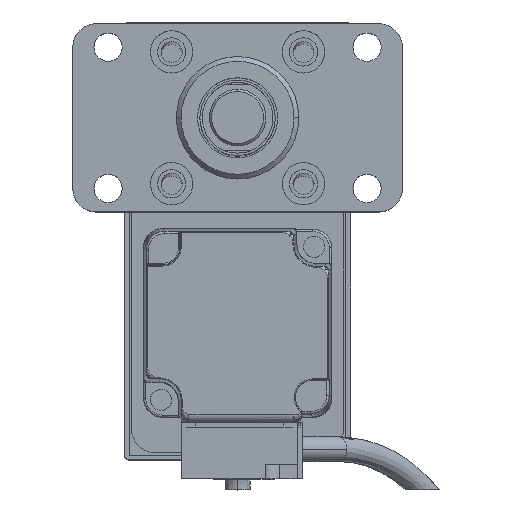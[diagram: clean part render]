
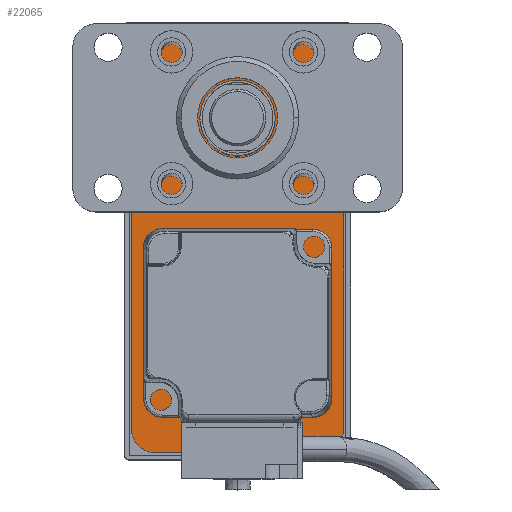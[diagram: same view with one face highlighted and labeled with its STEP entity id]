
A CAD part, top view. The second image highlights one B-rep face of the part: STEP entity #22065.
In plain terms, the highlighted planar face has unit normal (0, 0, 1).
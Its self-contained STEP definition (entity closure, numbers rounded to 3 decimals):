
#266 = EDGE_CURVE ( 'NONE', #18677, #11075, #13534, .T. ) ;
#655 = CARTESIAN_POINT ( 'NONE',  ( 22.5, -40., 10. ) ) ;
#673 = CARTESIAN_POINT ( 'NONE',  ( -22.5, 40., 10. ) ) ;
#963 = LINE ( 'NONE', #11417, #7876 ) ;
#1157 = ORIENTED_EDGE ( 'NONE', *, *, #16188, .T. ) ;
#2268 = ORIENTED_EDGE ( 'NONE', *, *, #266, .T. ) ;
#2504 = DIRECTION ( 'NONE',  ( 0., 0., 1. ) ) ;
#3588 = CARTESIAN_POINT ( 'NONE',  ( 22.5, 40., 10. ) ) ;
#4064 = DIRECTION ( 'NONE',  ( 0., 0., 1. ) ) ;
#4688 = CARTESIAN_POINT ( 'NONE',  ( -17.5, 40., 10. ) ) ;
#4713 = CARTESIAN_POINT ( 'NONE',  ( 17.5, -40., 10. ) ) ;
#5412 = AXIS2_PLACEMENT_3D ( 'NONE', #12448, #8597, #23998 ) ;
#5519 = ORIENTED_EDGE ( 'NONE', *, *, #11012, .T. ) ;
#5599 = DIRECTION ( 'NONE',  ( 1., 0., 0. ) ) ;
#6349 = DIRECTION ( 'NONE',  ( 1., 0., 0. ) ) ;
#6696 = DIRECTION ( 'NONE',  ( -1., 0., 0. ) ) ;
#7211 = VECTOR ( 'NONE', #8355, 1000. ) ;
#7227 = AXIS2_PLACEMENT_3D ( 'NONE', #15892, #4064, #21359 ) ;
#7876 = VECTOR ( 'NONE', #9996, 1000. ) ;
#8355 = DIRECTION ( 'NONE',  ( 0., 1., 0. ) ) ;
#8597 = DIRECTION ( 'NONE',  ( 0., 0., 1. ) ) ;
#8714 = ORIENTED_EDGE ( 'NONE', *, *, #15008, .T. ) ;
#9002 = ORIENTED_EDGE ( 'NONE', *, *, #23806, .T. ) ;
#9080 = VECTOR ( 'NONE', #5599, 1000. ) ;
#9562 = LINE ( 'NONE', #20311, #14371 ) ;
#9569 = VERTEX_POINT ( 'NONE', #12954 ) ;
#9996 = DIRECTION ( 'NONE',  ( 0., -1., 0. ) ) ;
#10197 = CARTESIAN_POINT ( 'NONE',  ( 22.5, -45., 10. ) ) ;
#10640 = EDGE_LOOP ( 'NONE', ( #8714, #13211, #1157, #9002, #14795, #2268, #5519, #15245 ) ) ;
#11012 = EDGE_CURVE ( 'NONE', #11075, #9569, #24455, .T. ) ;
#11016 = VERTEX_POINT ( 'NONE', #3588 ) ;
#11075 = VERTEX_POINT ( 'NONE', #18701 ) ;
#11417 = CARTESIAN_POINT ( 'NONE',  ( -22.5, -45., 10. ) ) ;
#12324 = LINE ( 'NONE', #10197, #7211 ) ;
#12448 = CARTESIAN_POINT ( 'NONE',  ( 17.5, 40., 10. ) ) ;
#12646 = EDGE_CURVE ( 'NONE', #16524, #18677, #963, .T. ) ;
#12819 = EDGE_CURVE ( 'NONE', #9569, #19888, #15978, .T. ) ;
#12954 = CARTESIAN_POINT ( 'NONE',  ( 17.5, -45., 10. ) ) ;
#13211 = ORIENTED_EDGE ( 'NONE', *, *, #24152, .T. ) ;
#13534 = CIRCLE ( 'NONE', #7227, 5. ) ;
#13963 = PLANE ( 'NONE',  #23423 ) ;
#14371 = VECTOR ( 'NONE', #6696, 1000. ) ;
#14795 = ORIENTED_EDGE ( 'NONE', *, *, #12646, .T. ) ;
#14844 = CARTESIAN_POINT ( 'NONE',  ( -17.5, 45., 10. ) ) ;
#14906 = AXIS2_PLACEMENT_3D ( 'NONE', #4713, #22332, #23959 ) ;
#15008 = EDGE_CURVE ( 'NONE', #19888, #11016, #12324, .T. ) ;
#15245 = ORIENTED_EDGE ( 'NONE', *, *, #12819, .T. ) ;
#15473 = CARTESIAN_POINT ( 'NONE',  ( -22.5, -40., 10. ) ) ;
#15892 = CARTESIAN_POINT ( 'NONE',  ( -17.5, -40., 10. ) ) ;
#15940 = DIRECTION ( 'NONE',  ( 1., 0., 0. ) ) ;
#15978 = CIRCLE ( 'NONE', #14906, 5. ) ;
#16188 = EDGE_CURVE ( 'NONE', #20310, #24888, #9562, .T. ) ;
#16256 = CIRCLE ( 'NONE', #21344, 5. ) ;
#16524 = VERTEX_POINT ( 'NONE', #673 ) ;
#18677 = VERTEX_POINT ( 'NONE', #15473 ) ;
#18701 = CARTESIAN_POINT ( 'NONE',  ( -17.5, -45., 10. ) ) ;
#18780 = CARTESIAN_POINT ( 'NONE',  ( 22.5, -45., 10. ) ) ;
#19279 = CIRCLE ( 'NONE', #5412, 5. ) ;
#19888 = VERTEX_POINT ( 'NONE', #655 ) ;
#19985 = DIRECTION ( 'NONE',  ( 0., 0., 1. ) ) ;
#20310 = VERTEX_POINT ( 'NONE', #23535 ) ;
#20311 = CARTESIAN_POINT ( 'NONE',  ( 22.5, 45., 10. ) ) ;
#21344 = AXIS2_PLACEMENT_3D ( 'NONE', #4688, #19985, #15940 ) ;
#21359 = DIRECTION ( 'NONE',  ( 1., 0., 0. ) ) ;
#21456 = FACE_OUTER_BOUND ( 'NONE', #10640, .T. ) ;
#22065 = ADVANCED_FACE ( 'NONE', ( #21456 ), #13963, .T. ) ;
#22332 = DIRECTION ( 'NONE',  ( 0., 0., 1. ) ) ;
#23423 = AXIS2_PLACEMENT_3D ( 'NONE', #23668, #2504, #6349 ) ;
#23535 = CARTESIAN_POINT ( 'NONE',  ( 17.5, 45., 10. ) ) ;
#23668 = CARTESIAN_POINT ( 'NONE',  ( 0., 0., 10. ) ) ;
#23806 = EDGE_CURVE ( 'NONE', #24888, #16524, #16256, .T. ) ;
#23959 = DIRECTION ( 'NONE',  ( 1., 0., 0. ) ) ;
#23998 = DIRECTION ( 'NONE',  ( 1., 0., 0. ) ) ;
#24152 = EDGE_CURVE ( 'NONE', #11016, #20310, #19279, .T. ) ;
#24455 = LINE ( 'NONE', #18780, #9080 ) ;
#24888 = VERTEX_POINT ( 'NONE', #14844 ) ;
